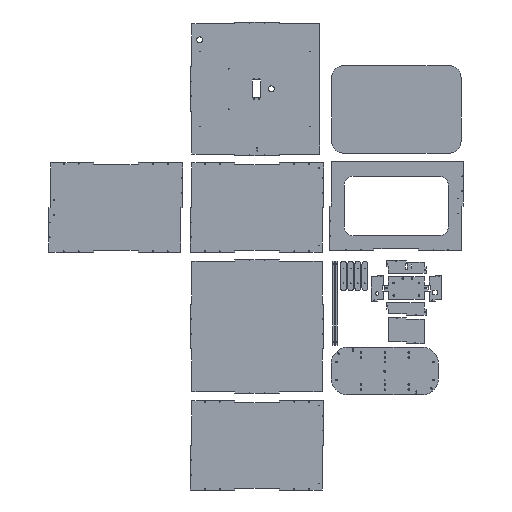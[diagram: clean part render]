
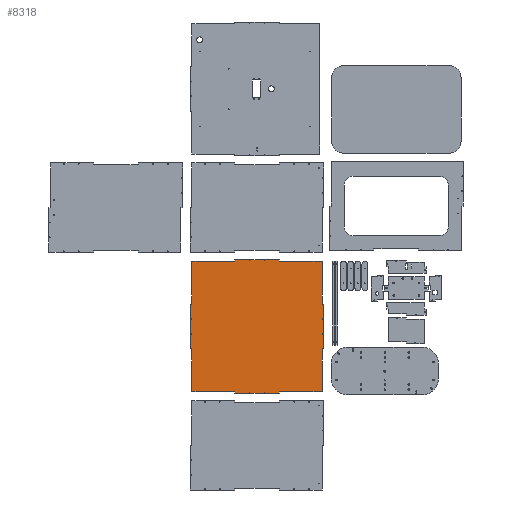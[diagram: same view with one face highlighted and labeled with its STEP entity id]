
A CAD part, front view. The second image highlights one B-rep face of the part: STEP entity #8318.
In plain terms, the highlighted planar face has unit normal (0, -1, 0).
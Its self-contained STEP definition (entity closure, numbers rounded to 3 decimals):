
#185=FACE_BOUND('',#1351,.T.);
#186=FACE_BOUND('',#1352,.T.);
#187=FACE_BOUND('',#1353,.T.);
#188=FACE_BOUND('',#1354,.T.);
#189=FACE_BOUND('',#1355,.T.);
#190=FACE_BOUND('',#1356,.T.);
#191=FACE_BOUND('',#1357,.T.);
#192=FACE_BOUND('',#1358,.T.);
#484=PLANE('',#8942);
#812=FACE_OUTER_BOUND('',#1350,.T.);
#1350=EDGE_LOOP('',(#6689,#6690,#6691,#6692,#6693,#6694,#6695,#6696,#6697,
#6698,#6699,#6700,#6701,#6702,#6703,#6704,#6705,#6706,#6707,#6708));
#1351=EDGE_LOOP('',(#6709));
#1352=EDGE_LOOP('',(#6710));
#1353=EDGE_LOOP('',(#6711));
#1354=EDGE_LOOP('',(#6712));
#1355=EDGE_LOOP('',(#6713));
#1356=EDGE_LOOP('',(#6714));
#1357=EDGE_LOOP('',(#6715));
#1358=EDGE_LOOP('',(#6716));
#2091=LINE('',#12731,#2895);
#2095=LINE('',#12739,#2899);
#2098=LINE('',#12745,#2902);
#2103=LINE('',#12754,#2907);
#2104=LINE('',#12757,#2908);
#2107=LINE('',#12764,#2911);
#2111=LINE('',#12773,#2915);
#2115=LINE('',#12780,#2919);
#2119=LINE('',#12787,#2923);
#2120=LINE('',#12790,#2924);
#2123=LINE('',#12797,#2927);
#2127=LINE('',#12806,#2931);
#2131=LINE('',#12813,#2935);
#2134=LINE('',#12817,#2938);
#2135=LINE('',#12819,#2939);
#2137=LINE('',#12824,#2941);
#2141=LINE('',#12832,#2945);
#2144=LINE('',#12838,#2948);
#2148=LINE('',#12844,#2952);
#2149=LINE('',#12846,#2953);
#2895=VECTOR('',#10371,10.);
#2899=VECTOR('',#10377,10.);
#2902=VECTOR('',#10382,10.);
#2907=VECTOR('',#10389,10.);
#2908=VECTOR('',#10392,10.);
#2911=VECTOR('',#10397,10.);
#2915=VECTOR('',#10403,10.);
#2919=VECTOR('',#10409,10.);
#2923=VECTOR('',#10415,10.);
#2924=VECTOR('',#10418,10.);
#2927=VECTOR('',#10423,10.);
#2931=VECTOR('',#10429,10.);
#2935=VECTOR('',#10435,10.);
#2938=VECTOR('',#10440,10.);
#2939=VECTOR('',#10443,10.);
#2941=VECTOR('',#10447,10.);
#2945=VECTOR('',#10453,10.);
#2948=VECTOR('',#10458,10.);
#2952=VECTOR('',#10464,10.);
#2953=VECTOR('',#10467,10.);
#3499=CIRCLE('',#8898,1.25);
#3501=CIRCLE('',#8901,1.25);
#3503=CIRCLE('',#8904,1.25);
#3505=CIRCLE('',#8907,1.25);
#3507=CIRCLE('',#8910,1.25);
#3509=CIRCLE('',#8913,1.25);
#3511=CIRCLE('',#8916,1.25);
#3513=CIRCLE('',#8919,1.25);
#4017=VERTEX_POINT('',#12681);
#4019=VERTEX_POINT('',#12687);
#4021=VERTEX_POINT('',#12693);
#4023=VERTEX_POINT('',#12699);
#4025=VERTEX_POINT('',#12705);
#4027=VERTEX_POINT('',#12711);
#4029=VERTEX_POINT('',#12717);
#4031=VERTEX_POINT('',#12723);
#4033=VERTEX_POINT('',#12729);
#4034=VERTEX_POINT('',#12730);
#4037=VERTEX_POINT('',#12738);
#4039=VERTEX_POINT('',#12744);
#4042=VERTEX_POINT('',#12752);
#4043=VERTEX_POINT('',#12756);
#4045=VERTEX_POINT('',#12762);
#4046=VERTEX_POINT('',#12763);
#4049=VERTEX_POINT('',#12771);
#4050=VERTEX_POINT('',#12772);
#4054=VERTEX_POINT('',#12785);
#4055=VERTEX_POINT('',#12789);
#4057=VERTEX_POINT('',#12795);
#4058=VERTEX_POINT('',#12796);
#4061=VERTEX_POINT('',#12804);
#4062=VERTEX_POINT('',#12805);
#4065=VERTEX_POINT('',#12822);
#4066=VERTEX_POINT('',#12823);
#4069=VERTEX_POINT('',#12831);
#4071=VERTEX_POINT('',#12837);
#4939=EDGE_CURVE('',#4017,#4017,#3499,.T.);
#4942=EDGE_CURVE('',#4019,#4019,#3501,.T.);
#4945=EDGE_CURVE('',#4021,#4021,#3503,.T.);
#4948=EDGE_CURVE('',#4023,#4023,#3505,.T.);
#4951=EDGE_CURVE('',#4025,#4025,#3507,.T.);
#4954=EDGE_CURVE('',#4027,#4027,#3509,.T.);
#4957=EDGE_CURVE('',#4029,#4029,#3511,.T.);
#4960=EDGE_CURVE('',#4031,#4031,#3513,.T.);
#4963=EDGE_CURVE('',#4033,#4034,#2091,.T.);
#4967=EDGE_CURVE('',#4037,#4033,#2095,.T.);
#4970=EDGE_CURVE('',#4039,#4037,#2098,.T.);
#4975=EDGE_CURVE('',#4042,#4039,#2103,.T.);
#4976=EDGE_CURVE('',#4034,#4043,#2104,.T.);
#4979=EDGE_CURVE('',#4045,#4046,#2107,.T.);
#4983=EDGE_CURVE('',#4049,#4050,#2111,.T.);
#4987=EDGE_CURVE('',#4049,#4045,#2115,.T.);
#4991=EDGE_CURVE('',#4054,#4046,#2119,.T.);
#4992=EDGE_CURVE('',#4050,#4055,#2120,.T.);
#4995=EDGE_CURVE('',#4057,#4058,#2123,.T.);
#4999=EDGE_CURVE('',#4061,#4062,#2127,.T.);
#5003=EDGE_CURVE('',#4062,#4057,#2131,.T.);
#5006=EDGE_CURVE('',#4043,#4058,#2134,.T.);
#5007=EDGE_CURVE('',#4061,#4054,#2135,.T.);
#5009=EDGE_CURVE('',#4065,#4066,#2137,.T.);
#5013=EDGE_CURVE('',#4069,#4065,#2141,.T.);
#5016=EDGE_CURVE('',#4071,#4069,#2144,.T.);
#5020=EDGE_CURVE('',#4055,#4071,#2148,.T.);
#5021=EDGE_CURVE('',#4066,#4042,#2149,.T.);
#6689=ORIENTED_EDGE('',*,*,#4975,.F.);
#6690=ORIENTED_EDGE('',*,*,#5021,.F.);
#6691=ORIENTED_EDGE('',*,*,#5009,.F.);
#6692=ORIENTED_EDGE('',*,*,#5013,.F.);
#6693=ORIENTED_EDGE('',*,*,#5016,.F.);
#6694=ORIENTED_EDGE('',*,*,#5020,.F.);
#6695=ORIENTED_EDGE('',*,*,#4992,.F.);
#6696=ORIENTED_EDGE('',*,*,#4983,.F.);
#6697=ORIENTED_EDGE('',*,*,#4987,.T.);
#6698=ORIENTED_EDGE('',*,*,#4979,.T.);
#6699=ORIENTED_EDGE('',*,*,#4991,.F.);
#6700=ORIENTED_EDGE('',*,*,#5007,.F.);
#6701=ORIENTED_EDGE('',*,*,#4999,.T.);
#6702=ORIENTED_EDGE('',*,*,#5003,.T.);
#6703=ORIENTED_EDGE('',*,*,#4995,.T.);
#6704=ORIENTED_EDGE('',*,*,#5006,.F.);
#6705=ORIENTED_EDGE('',*,*,#4976,.F.);
#6706=ORIENTED_EDGE('',*,*,#4963,.F.);
#6707=ORIENTED_EDGE('',*,*,#4967,.F.);
#6708=ORIENTED_EDGE('',*,*,#4970,.F.);
#6709=ORIENTED_EDGE('',*,*,#4939,.T.);
#6710=ORIENTED_EDGE('',*,*,#4942,.T.);
#6711=ORIENTED_EDGE('',*,*,#4945,.T.);
#6712=ORIENTED_EDGE('',*,*,#4948,.T.);
#6713=ORIENTED_EDGE('',*,*,#4951,.T.);
#6714=ORIENTED_EDGE('',*,*,#4954,.T.);
#6715=ORIENTED_EDGE('',*,*,#4957,.T.);
#6716=ORIENTED_EDGE('',*,*,#4960,.T.);
#8318=ADVANCED_FACE('',(#812,#185,#186,#187,#188,#189,#190,#191,#192),#484,
 .F.);
#8898=AXIS2_PLACEMENT_3D('',#12682,#10315,#10316);
#8901=AXIS2_PLACEMENT_3D('',#12688,#10322,#10323);
#8904=AXIS2_PLACEMENT_3D('',#12694,#10329,#10330);
#8907=AXIS2_PLACEMENT_3D('',#12700,#10336,#10337);
#8910=AXIS2_PLACEMENT_3D('',#12706,#10343,#10344);
#8913=AXIS2_PLACEMENT_3D('',#12712,#10350,#10351);
#8916=AXIS2_PLACEMENT_3D('',#12718,#10357,#10358);
#8919=AXIS2_PLACEMENT_3D('',#12724,#10364,#10365);
#8942=AXIS2_PLACEMENT_3D('',#12849,#10471,#10472);
#10315=DIRECTION('center_axis',(0.,1.,0.));
#10316=DIRECTION('ref_axis',(1.,0.,0.));
#10322=DIRECTION('center_axis',(0.,1.,0.));
#10323=DIRECTION('ref_axis',(1.,0.,0.));
#10329=DIRECTION('center_axis',(0.,1.,0.));
#10330=DIRECTION('ref_axis',(1.,0.,0.));
#10336=DIRECTION('center_axis',(0.,1.,0.));
#10337=DIRECTION('ref_axis',(1.,0.,0.));
#10343=DIRECTION('center_axis',(0.,1.,0.));
#10344=DIRECTION('ref_axis',(1.,0.,0.));
#10350=DIRECTION('center_axis',(0.,1.,0.));
#10351=DIRECTION('ref_axis',(1.,0.,0.));
#10357=DIRECTION('center_axis',(0.,1.,0.));
#10358=DIRECTION('ref_axis',(1.,0.,0.));
#10364=DIRECTION('center_axis',(0.,1.,0.));
#10365=DIRECTION('ref_axis',(1.,0.,0.));
#10371=DIRECTION('',(1.,0.,0.));
#10377=DIRECTION('',(0.,0.,1.));
#10382=DIRECTION('',(-1.,0.,0.));
#10389=DIRECTION('',(0.,0.,1.));
#10392=DIRECTION('',(0.,0.,1.));
#10397=DIRECTION('',(-1.,0.,0.));
#10403=DIRECTION('',(-1.,0.,0.));
#10409=DIRECTION('',(0.,0.,1.));
#10415=DIRECTION('',(0.,0.,-1.));
#10418=DIRECTION('',(0.,0.,-1.));
#10423=DIRECTION('',(0.,0.,-1.));
#10429=DIRECTION('',(0.,0.,1.));
#10435=DIRECTION('',(-1.,0.,0.));
#10440=DIRECTION('',(1.,0.,0.));
#10443=DIRECTION('',(1.,0.,0.));
#10447=DIRECTION('',(0.,0.,1.));
#10453=DIRECTION('',(-1.,0.,0.));
#10458=DIRECTION('',(0.,0.,-1.));
#10464=DIRECTION('',(-1.,0.,0.));
#10467=DIRECTION('',(-1.,0.,0.));
#10471=DIRECTION('center_axis',(0.,1.,0.));
#10472=DIRECTION('ref_axis',(1.,0.,0.));
#12681=CARTESIAN_POINT('',(23.75,-225.,-178.));
#12682=CARTESIAN_POINT('Origin',(25.,-225.,-178.));
#12687=CARTESIAN_POINT('',(-26.25,-225.,-622.));
#12688=CARTESIAN_POINT('Origin',(-25.,-225.,-622.));
#12693=CARTESIAN_POINT('',(-223.25,-225.,-425.));
#12694=CARTESIAN_POINT('Origin',(-222.,-225.,-425.));
#12699=CARTESIAN_POINT('',(220.75,-225.,-425.));
#12700=CARTESIAN_POINT('Origin',(222.,-225.,-425.));
#12705=CARTESIAN_POINT('',(-26.25,-225.,-178.));
#12706=CARTESIAN_POINT('Origin',(-25.,-225.,-178.));
#12711=CARTESIAN_POINT('',(23.75,-225.,-622.));
#12712=CARTESIAN_POINT('Origin',(25.,-225.,-622.));
#12717=CARTESIAN_POINT('',(-223.25,-225.,-375.));
#12718=CARTESIAN_POINT('Origin',(-222.,-225.,-375.));
#12723=CARTESIAN_POINT('',(220.75,-225.,-375.));
#12724=CARTESIAN_POINT('Origin',(222.,-225.,-375.));
#12729=CARTESIAN_POINT('',(-225.,-225.,-325.));
#12730=CARTESIAN_POINT('',(-219.,-225.,-325.));
#12731=CARTESIAN_POINT('',(-225.,-225.,-325.));
#12738=CARTESIAN_POINT('',(-225.,-225.,-475.));
#12739=CARTESIAN_POINT('',(-225.,-225.,-475.));
#12744=CARTESIAN_POINT('',(-219.,-225.,-475.));
#12745=CARTESIAN_POINT('',(-219.,-225.,-475.));
#12752=CARTESIAN_POINT('',(-219.,-225.,-619.));
#12754=CARTESIAN_POINT('',(-219.,-225.,-619.));
#12756=CARTESIAN_POINT('',(-219.,-225.,-181.));
#12757=CARTESIAN_POINT('',(-219.,-225.,-619.));
#12762=CARTESIAN_POINT('',(225.,-225.,-325.));
#12763=CARTESIAN_POINT('',(219.,-225.,-325.));
#12764=CARTESIAN_POINT('',(225.,-225.,-325.));
#12771=CARTESIAN_POINT('',(225.,-225.,-475.));
#12772=CARTESIAN_POINT('',(219.,-225.,-475.));
#12773=CARTESIAN_POINT('',(225.,-225.,-475.));
#12780=CARTESIAN_POINT('',(225.,-225.,-475.));
#12785=CARTESIAN_POINT('',(219.,-225.,-181.));
#12787=CARTESIAN_POINT('',(219.,-225.,-181.));
#12789=CARTESIAN_POINT('',(219.,-225.,-619.));
#12790=CARTESIAN_POINT('',(219.,-225.,-181.));
#12795=CARTESIAN_POINT('',(-75.,-225.,-175.));
#12796=CARTESIAN_POINT('',(-75.,-225.,-181.));
#12797=CARTESIAN_POINT('',(-75.,-225.,-175.));
#12804=CARTESIAN_POINT('',(75.,-225.,-181.));
#12805=CARTESIAN_POINT('',(75.,-225.,-175.));
#12806=CARTESIAN_POINT('',(75.,-225.,-181.));
#12813=CARTESIAN_POINT('',(75.,-225.,-175.));
#12817=CARTESIAN_POINT('',(-219.,-225.,-181.));
#12819=CARTESIAN_POINT('',(-219.,-225.,-181.));
#12822=CARTESIAN_POINT('',(-75.,-225.,-625.));
#12823=CARTESIAN_POINT('',(-75.,-225.,-619.));
#12824=CARTESIAN_POINT('',(-75.,-225.,-625.));
#12831=CARTESIAN_POINT('',(75.,-225.,-625.));
#12832=CARTESIAN_POINT('',(75.,-225.,-625.));
#12837=CARTESIAN_POINT('',(75.,-225.,-619.));
#12838=CARTESIAN_POINT('',(75.,-225.,-619.));
#12844=CARTESIAN_POINT('',(219.,-225.,-619.));
#12846=CARTESIAN_POINT('',(219.,-225.,-619.));
#12849=CARTESIAN_POINT('Origin',(0.,-225.,-400.));
